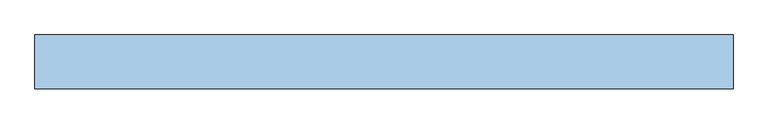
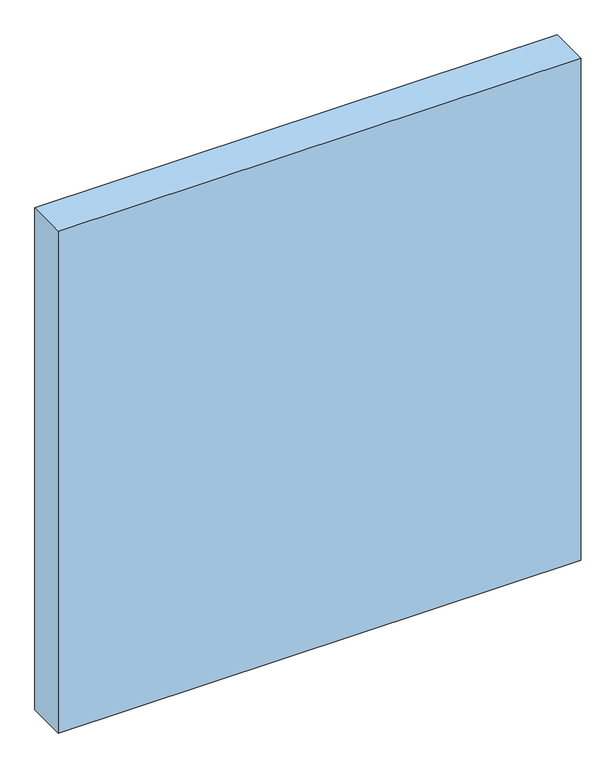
"""IFC4 building model written with IfcOpenShell, lengths in millimetres: window geometry, Dr_Проем-Четверти_окно : ВТ."""

from ifc_helpers import new_model, si_unit, frame, origin, place, context, project, spatial, polyline, outline, extrude, source, transform, mapped, element, save


def window_ece4fa7a(model_context):
    return source(origin(), model_context, "Body", "SweptSolid", [
        extrude(outline(polyline([(1105.0, -50.0), (-835.0, -50.0), (-835.0, 100.0), (1105.0, 100.0), (1105.0, -50.0)])), frame((0.0, 0.0, -60.0), z_axis=(0.0, 0.0, 1.0), x_axis=(1.0, 0.0, 0.0)), (0.0, 0.0, 1.0), 1970.0),
    ])


if __name__ == "__main__":
    model = new_model("IFC4")
    model_context = context("Model", 3, world=origin())
    ifc_project = project(units=[si_unit("LENGTHUNIT", "METRE", prefix="MILLI")], contexts=[model_context])
    site = spatial("IfcSite", under=ifc_project)
    building = spatial("IfcBuilding", under=site)
    placement = place(None, origin())
    window_shape = window_ece4fa7a(model_context)
    element("IfcWindow", 1, ObjectType="Dr_Проем-Четверти_окно : ВТ", at=placement, inside=building, context=model_context, shape_type="MappedRepresentation", body=[
        mapped(window_shape, transform((0.0, 0.0, 0.0), x_axis=(1.0, 0.0, 0.0), y_axis=(0.0, 1.0, 0.0), z_axis=(0.0, 0.0, 1.0))),
    ])
    save(model, "model.ifc")
